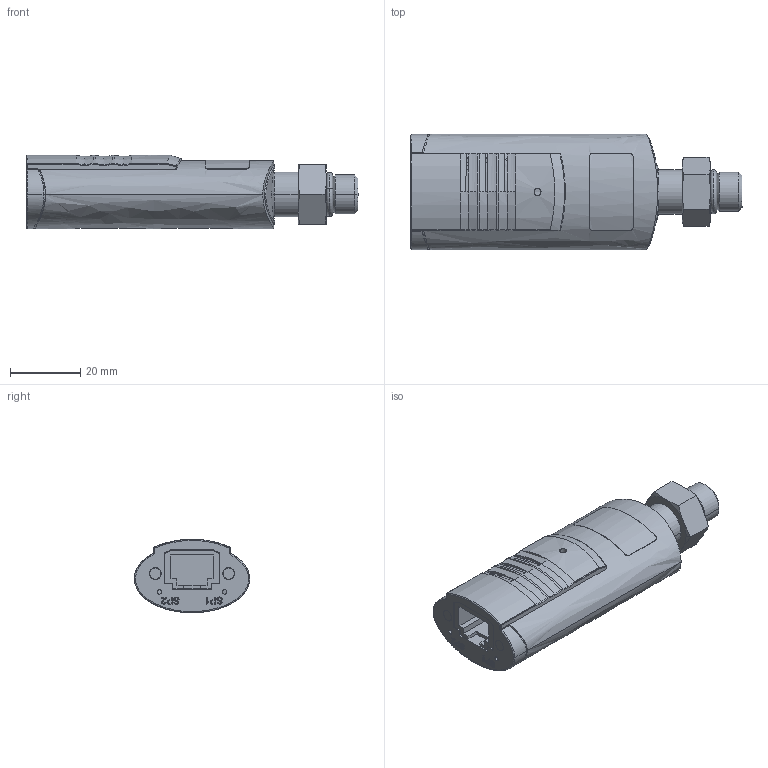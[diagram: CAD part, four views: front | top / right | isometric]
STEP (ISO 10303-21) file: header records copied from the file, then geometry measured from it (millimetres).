
FILE_DESCRIPTION((''),'2;1');
FILE_NAME('N:\Transfer\Berger Martin\3d-modelle_restliche\308-163\Inficon mit 2SP\Wolfram\350-086\350-086.stp','2005-02-03T17:04:29',('BEM'),(''),'Autodesk Inventor 9','Autodesk Inventor 9','');
FILE_SCHEMA(('AUTOMOTIVE_DESIGN { 1 0 10303 214 1 1 1 1 }'));
Length unit declared in the file: millimetre
Products named in the file (1): 350-086
Bounding box: 94.5 x 32.8 x 20.9 mm (x, y, z)
Volume: 14830.3 mm3; surface area: 19245.5 mm2
Topology: 1 solids, 1 shells, 682 faces, 1959 edges, 1286 vertices
Faces by surface type: plane 271, bspline 194, cylinder 175, cone 30, torus 8, sphere 4
Entity records: 26792 total; most frequent: CARTESIAN_POINT 10142, ORIENTED_EDGE 3914, DIRECTION 2797, EDGE_CURVE 1957, VERTEX_POINT 1286, VECTOR 1065, LINE 1065, AXIS2_PLACEMENT_3D 866
